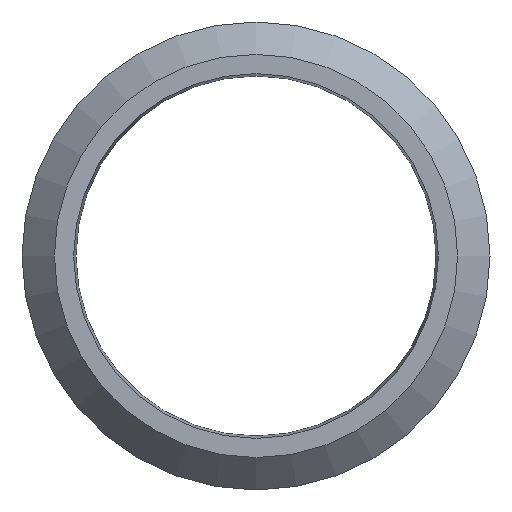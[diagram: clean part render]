
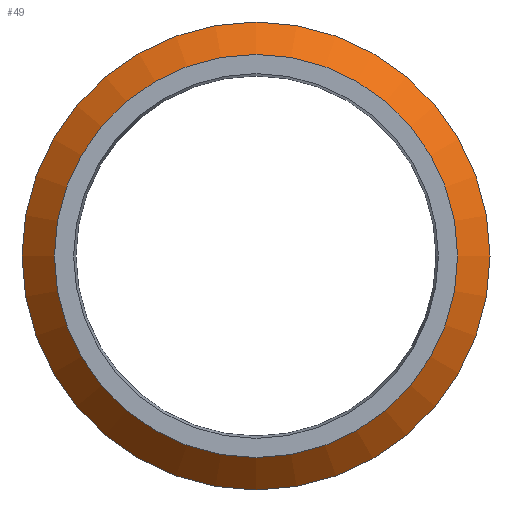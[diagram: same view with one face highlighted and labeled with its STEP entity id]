
A CAD part, left-side view. The second image highlights one B-rep face of the part: STEP entity #49.
In plain terms, the highlighted conical face has half-angle 45 degrees and reference radius 12.1 mm.
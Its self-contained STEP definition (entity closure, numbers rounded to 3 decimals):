
#49 = ADVANCED_FACE( '', ( #106, #107 ), #108, .T. );
#106 = FACE_BOUND( '', #173, .T. );
#107 = FACE_OUTER_BOUND( '', #174, .T. );
#108 = CONICAL_SURFACE( '', #175, 12.1, 0.785 );
#173 = EDGE_LOOP( '', ( #278 ) );
#174 = EDGE_LOOP( '', ( #279 ) );
#175 = AXIS2_PLACEMENT_3D( '', #280, #281, #282 );
#278 = ORIENTED_EDGE( '', *, *, #348, .T. );
#279 = ORIENTED_EDGE( '', *, *, #349, .T. );
#280 = CARTESIAN_POINT( '', ( -6.425, -5.832, 0. ) );
#281 = DIRECTION( '', ( 1., 0., 0. ) );
#282 = DIRECTION( '', ( 0., -1., 0. ) );
#348 = EDGE_CURVE( '', #386, #386, #387, .T. );
#349 = EDGE_CURVE( '', #388, #388, #389, .T. );
#386 = VERTEX_POINT( '', #431 );
#387 = CIRCLE( '', #432, 11.2 );
#388 = VERTEX_POINT( '', #433 );
#389 = CIRCLE( '', #434, 13. );
#431 = CARTESIAN_POINT( '', ( -7.325, -17.032, 0. ) );
#432 = AXIS2_PLACEMENT_3D( '', #478, #479, #480 );
#433 = CARTESIAN_POINT( '', ( -5.525, -18.832, 0. ) );
#434 = AXIS2_PLACEMENT_3D( '', #481, #482, #483 );
#478 = CARTESIAN_POINT( '', ( -7.325, -5.832, 0. ) );
#479 = DIRECTION( '', ( 1., 0., 0. ) );
#480 = DIRECTION( '', ( 0., -1., 0. ) );
#481 = CARTESIAN_POINT( '', ( -5.525, -5.832, 0. ) );
#482 = DIRECTION( '', ( -1., 0., 0. ) );
#483 = DIRECTION( '', ( 0., -1., 0. ) );
